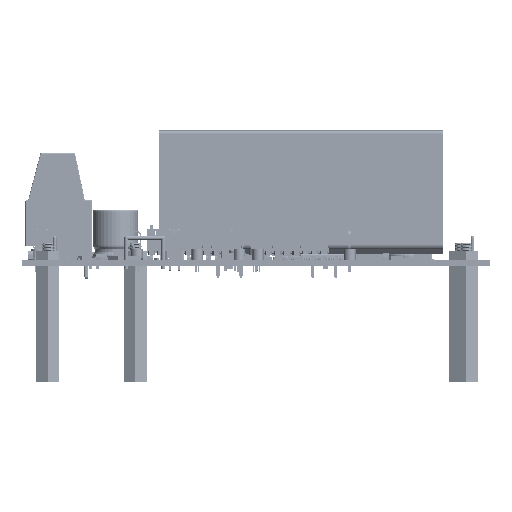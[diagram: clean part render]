
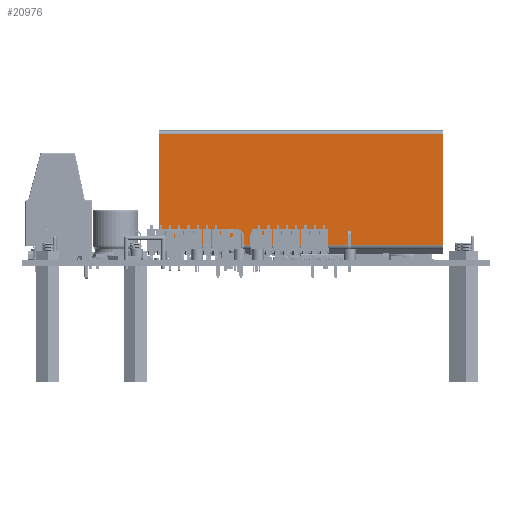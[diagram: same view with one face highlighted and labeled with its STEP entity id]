
A CAD part, left-side view. The second image highlights one B-rep face of the part: STEP entity #20976.
In plain terms, the highlighted planar face has unit normal (-1, 0, 0).
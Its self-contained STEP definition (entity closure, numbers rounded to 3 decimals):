
#20088 = VERTEX_POINT('',#20089);
#20089 = CARTESIAN_POINT('',(-17.996,34.61,39.));
#20096 = EDGE_CURVE('',#20088,#20097,#20099,.T.);
#20097 = VERTEX_POINT('',#20098);
#20098 = CARTESIAN_POINT('',(-17.996,4.267,39.));
#20099 = LINE('',#20100,#20101);
#20100 = CARTESIAN_POINT('',(-17.996,0.,39.));
#20101 = VECTOR('',#20102,1.);
#20102 = DIRECTION('',(0.,-1.,-0.));
#20805 = VERTEX_POINT('',#20806);
#20806 = CARTESIAN_POINT('',(-17.996,4.267,-39.));
#20813 = EDGE_CURVE('',#20814,#20805,#20816,.T.);
#20814 = VERTEX_POINT('',#20815);
#20815 = CARTESIAN_POINT('',(-17.996,34.61,-39.));
#20816 = LINE('',#20817,#20818);
#20817 = CARTESIAN_POINT('',(-17.996,0.,-39.));
#20818 = VECTOR('',#20819,1.);
#20819 = DIRECTION('',(0.,-1.,-0.));
#20949 = EDGE_CURVE('',#20814,#20088,#20950,.T.);
#20950 = LINE('',#20951,#20952);
#20951 = CARTESIAN_POINT('',(-17.996,34.61,-67.659));
#20952 = VECTOR('',#20953,1.);
#20953 = DIRECTION('',(-0.,-0.,1.));
#20976 = ADVANCED_FACE('',(#20977),#20988,.F.);
#20977 = FACE_BOUND('',#20978,.T.);
#20978 = EDGE_LOOP('',(#20979,#20985,#20986,#20987));
#20979 = ORIENTED_EDGE('',*,*,#20980,.F.);
#20980 = EDGE_CURVE('',#20097,#20805,#20981,.T.);
#20981 = LINE('',#20982,#20983);
#20982 = CARTESIAN_POINT('',(-17.996,4.267,39.));
#20983 = VECTOR('',#20984,1.);
#20984 = DIRECTION('',(0.,-0.,-1.));
#20985 = ORIENTED_EDGE('',*,*,#20096,.F.);
#20986 = ORIENTED_EDGE('',*,*,#20949,.F.);
#20987 = ORIENTED_EDGE('',*,*,#20813,.T.);
#20988 = PLANE('',#20989);
#20989 = AXIS2_PLACEMENT_3D('',#20990,#20991,#20992);
#20990 = CARTESIAN_POINT('',(-17.996,7.01,39.));
#20991 = DIRECTION('',(1.,0.,0.));
#20992 = DIRECTION('',(0.,1.,0.));
